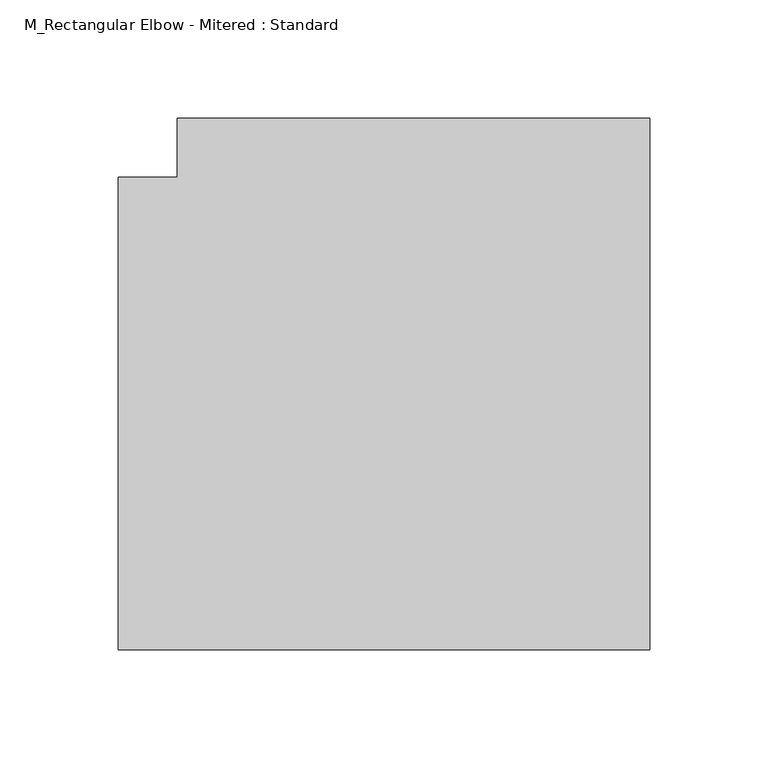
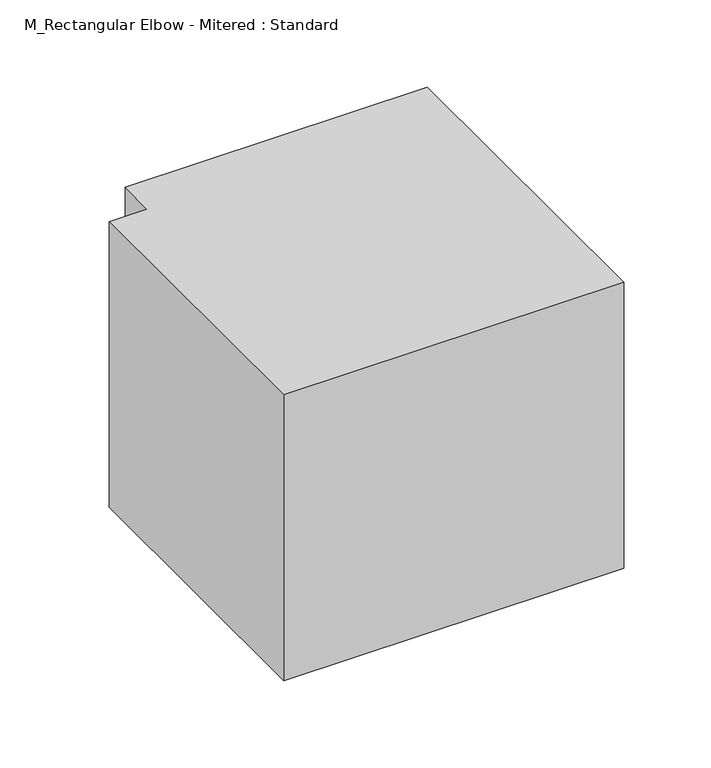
"""IFC4 building model written with IfcOpenShell, lengths in millimetres: duct fitting geometry, M_Rectangular Elbow - Mitered : Standard."""

from ifc_helpers import new_model, si_unit, frame, origin, place, context, project, spatial, polyline, outline, extrude, source, transform, mapped, element, save


def m_rectangular_elbow_mitered_standard_fd4559ef(model_context):
    return source(origin(), model_context, "Body", "SweptSolid", [
        extrude(outline(polyline([(-125.0, -100.0), (-125.0, 100.0), (-100.0, 100.0), (-100.0, 125.0), (100.0, 125.0), (100.0, -100.0), (-125.0, -100.0)])), frame((0.0, 0.0, -100.0), z_axis=(0.0, 0.0, 1.0), x_axis=(1.0, 0.0, 0.0)), (0.0, 0.0, 1.0), 200.0),
        extrude(outline(polyline([(-125.0, -100.0), (-125.0, 100.0), (-100.0, 100.0), (-100.0, 125.0), (100.0, 125.0), (100.0, -100.0), (-125.0, -100.0)])), frame((0.0, 0.0, -100.0), z_axis=(0.0, 0.0, 1.0), x_axis=(1.0, 0.0, 0.0)), (0.0, 0.0, 1.0), 200.0),
        extrude(outline(polyline([(-125.0, -100.0), (-125.0, 100.0), (-100.0, 100.0), (-100.0, 125.0), (100.0, 125.0), (100.0, -100.0), (-125.0, -100.0)])), frame((0.0, 0.0, -100.0), z_axis=(0.0, 0.0, 1.0), x_axis=(1.0, 0.0, 0.0)), (0.0, 0.0, 1.0), 200.0),
    ])


if __name__ == "__main__":
    model = new_model("IFC4")
    model_context = context("Model", 3, world=origin())
    ifc_project = project(units=[si_unit("LENGTHUNIT", "METRE", prefix="MILLI")], contexts=[model_context])
    site = spatial("IfcSite", under=ifc_project)
    building = spatial("IfcBuilding", under=site)
    placement = place(None, origin())
    m_rectangular_elbow_mitered_standard_shape = m_rectangular_elbow_mitered_standard_fd4559ef(model_context)
    element("IfcDuctFitting", 1, ObjectType="M_Rectangular Elbow - Mitered : Standard", at=placement, inside=building, context=model_context, shape_type="MappedRepresentation", body=[
        mapped(m_rectangular_elbow_mitered_standard_shape, transform((0.0, 0.0, 0.0), x_axis=(1.0, 0.0, 0.0), y_axis=(0.0, 1.0, 0.0), z_axis=(0.0, 0.0, 1.0))),
    ])
    save(model, "model.ifc")
